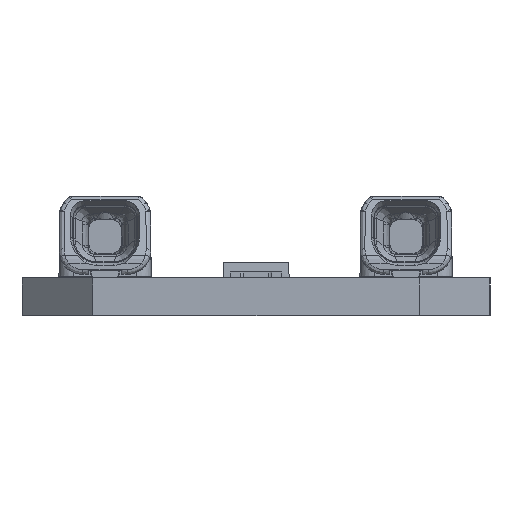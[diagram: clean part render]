
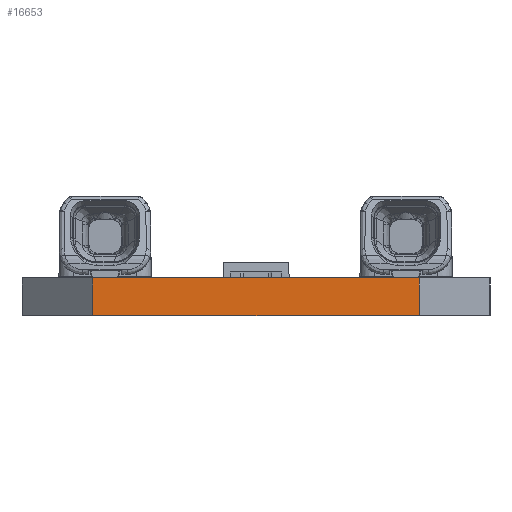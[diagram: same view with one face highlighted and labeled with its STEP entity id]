
A CAD part, left-side view. The second image highlights one B-rep face of the part: STEP entity #16653.
In plain terms, the highlighted planar face has unit normal (1, 0, 0).
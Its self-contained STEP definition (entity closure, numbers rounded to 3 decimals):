
#14185=DIRECTION('',(0.,0.,-1.));
#14186=VECTOR('',#14185,1.6);
#14187=CARTESIAN_POINT('',(-139.5,-6.9,1.6));
#14188=LINE('',#14187,#14186);
#14192=DIRECTION('',(0.,1.,0.));
#14193=VECTOR('',#14192,13.8);
#14194=CARTESIAN_POINT('',(-139.5,-6.9,1.6));
#14195=LINE('',#14194,#14193);
#14199=DIRECTION('',(0.,0.,-1.));
#14200=VECTOR('',#14199,1.6);
#14201=CARTESIAN_POINT('',(-139.5,6.9,1.6));
#14202=LINE('',#14201,#14200);
#14449=DIRECTION('',(0.,1.,0.));
#14450=VECTOR('',#14449,13.8);
#14451=CARTESIAN_POINT('',(-139.5,-6.9,0.));
#14452=LINE('',#14451,#14450);
#15870=CARTESIAN_POINT('',(-139.5,6.9,0.));
#15871=VERTEX_POINT('',#15870);
#15872=CARTESIAN_POINT('',(-139.5,6.9,1.6));
#15873=VERTEX_POINT('',#15872);
#15874=CARTESIAN_POINT('',(-139.5,-6.9,0.));
#15875=VERTEX_POINT('',#15874);
#15876=CARTESIAN_POINT('',(-139.5,-6.9,1.6));
#15877=VERTEX_POINT('',#15876);
#16640=CARTESIAN_POINT('',(-139.5,0.,0.8));
#16641=DIRECTION('',(1.,0.,0.));
#16642=DIRECTION('',(0.,0.,-1.));
#16643=AXIS2_PLACEMENT_3D('',#16640,#16641,#16642);
#16644=PLANE('',#16643);
#16645=ORIENTED_EDGE('',*,*,#16103,.T.);
#16647=ORIENTED_EDGE('',*,*,#16646,.T.);
#16649=ORIENTED_EDGE('',*,*,#16648,.F.);
#16650=ORIENTED_EDGE('',*,*,#16632,.F.);
#16651=EDGE_LOOP('',(#16645,#16647,#16649,#16650));
#16652=FACE_OUTER_BOUND('',#16651,.F.);
#16103=EDGE_CURVE('',#15877,#15873,#14195,.T.);
#16632=EDGE_CURVE('',#15877,#15875,#14188,.T.);
#16646=EDGE_CURVE('',#15873,#15871,#14202,.T.);
#16648=EDGE_CURVE('',#15875,#15871,#14452,.T.);
#16653=ADVANCED_FACE('',(#16652),#16644,.T.);
